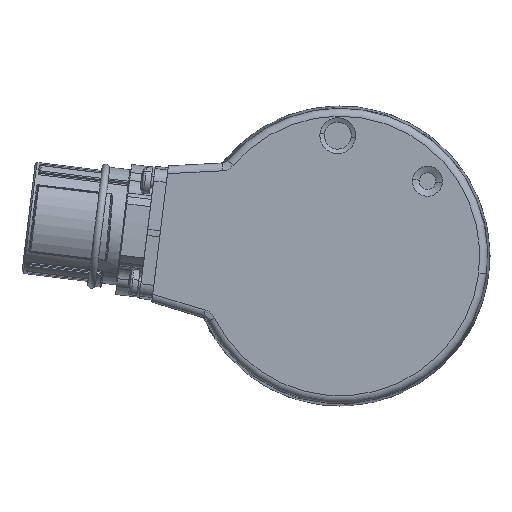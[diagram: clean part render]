
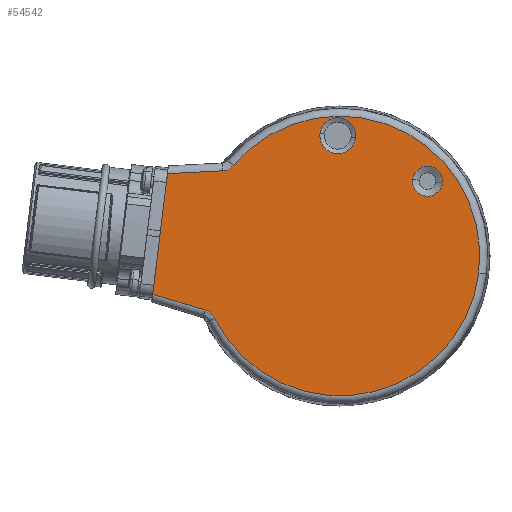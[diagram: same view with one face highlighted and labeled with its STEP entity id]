
A CAD part, left-side view. The second image highlights one B-rep face of the part: STEP entity #54542.
In plain terms, the highlighted planar face has unit normal (-1, 0, 0).
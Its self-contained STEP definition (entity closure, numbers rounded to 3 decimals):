
#115 = DIRECTION ( 'NONE',  ( 0., -0.122, 0.993 ) ) ;
#348 = CARTESIAN_POINT ( 'NONE',  ( -30.5, 24.205, -12.014 ) ) ;
#1517 = DIRECTION ( 'NONE',  ( 1., 0., 0. ) ) ;
#1629 = CARTESIAN_POINT ( 'NONE',  ( -30.5, 24.296, -11.83 ) ) ;
#1706 = CARTESIAN_POINT ( 'NONE',  ( -30.5, 20.859, 17.216 ) ) ;
#2005 = VERTEX_POINT ( 'NONE', #49057 ) ;
#2160 = CARTESIAN_POINT ( 'NONE',  ( -30.5, -14.042, 14.804 ) ) ;
#2538 = AXIS2_PLACEMENT_3D ( 'NONE', #54209, #26268, #58889 ) ;
#4641 = DIRECTION ( 'NONE',  ( 0., -0.993, -0.122 ) ) ;
#5998 = CARTESIAN_POINT ( 'NONE',  ( -30.5, -19.796, 14.097 ) ) ;
#6323 = ORIENTED_EDGE ( 'NONE', *, *, #42658, .T. ) ;
#6383 = CARTESIAN_POINT ( 'NONE',  ( -30.5, 20.579, 17.512 ) ) ;
#6473 = CARTESIAN_POINT ( 'NONE',  ( -30.5, 33.046, 15.919 ) ) ;
#6893 = CARTESIAN_POINT ( 'NONE',  ( -30.5, 0., 0. ) ) ;
#8229 = CARTESIAN_POINT ( 'NONE',  ( -30.5, 3.846, 23.669 ) ) ;
#10633 = EDGE_CURVE ( 'NONE', #38924, #11741, #30474, .T. ) ;
#11420 = VERTEX_POINT ( 'NONE', #5998 ) ;
#11619 = DIRECTION ( 'NONE',  ( 0., -0.993, -0.122 ) ) ;
#11741 = VERTEX_POINT ( 'NONE', #55245 ) ;
#12078 = EDGE_CURVE ( 'NONE', #51637, #33449, #28823, .T. ) ;
#12160 = EDGE_CURVE ( 'NONE', #38924, #33449, #23996, .T. ) ;
#12629 = FACE_BOUND ( 'NONE', #44570, .T. ) ;
#12807 = CARTESIAN_POINT ( 'NONE',  ( -30.5, 24.657, -11.336 ) ) ;
#13243 = ORIENTED_EDGE ( 'NONE', *, *, #12160, .T. ) ;
#14538 = DIRECTION ( 'NONE',  ( 1., 0., 0. ) ) ;
#15606 = CARTESIAN_POINT ( 'NONE',  ( -30.5, 22.503, 16.471 ) ) ;
#15744 = CARTESIAN_POINT ( 'NONE',  ( -30.5, 24.205, -12.014 ) ) ;
#15868 = CARTESIAN_POINT ( 'NONE',  ( -30.5, 24.797, -11.19 ) ) ;
#16184 = AXIS2_PLACEMENT_3D ( 'NONE', #42330, #14538, #47036 ) ;
#16267 = VERTEX_POINT ( 'NONE', #2160 ) ;
#16335 = CARTESIAN_POINT ( 'NONE',  ( -30.5, 36.168, -7.374 ) ) ;
#16725 = EDGE_CURVE ( 'NONE', #2005, #33111, #27221, .T. ) ;
#17739 = AXIS2_PLACEMENT_3D ( 'NONE', #18512, #51074, #23146 ) ;
#17854 = EDGE_CURVE ( 'NONE', #2005, #11741, #38074, .T. ) ;
#17940 = ORIENTED_EDGE ( 'NONE', *, *, #33462, .T. ) ;
#18036 = CARTESIAN_POINT ( 'NONE',  ( -30.5, -3.034, 22.824 ) ) ;
#18107 = VECTOR ( 'NONE', #115, 1000. ) ;
#18512 = CARTESIAN_POINT ( 'NONE',  ( -30.5, 0., 0. ) ) ;
#20241 = CARTESIAN_POINT ( 'NONE',  ( -30.5, 22.299, 16.503 ) ) ;
#20494 = CARTESIAN_POINT ( 'NONE',  ( -30.5, 25.277, -10.811 ) ) ;
#22781 = ORIENTED_EDGE ( 'NONE', *, *, #42208, .T. ) ;
#23146 = DIRECTION ( 'NONE',  ( 0., -0.993, -0.122 ) ) ;
#23996 = LINE ( 'NONE', #53896, #34849 ) ;
#24415 = ORIENTED_EDGE ( 'NONE', *, *, #17854, .T. ) ;
#24898 = CARTESIAN_POINT ( 'NONE',  ( -30.5, 21.716, 16.677 ) ) ;
#24933 = FACE_OUTER_BOUND ( 'NONE', #57130, .T. ) ;
#25140 = CARTESIAN_POINT ( 'NONE',  ( -30.5, 25.819, -10.538 ) ) ;
#25480 = CIRCLE ( 'NONE', #47484, 27.022 ) ;
#25613 = DIRECTION ( 'NONE',  ( 1., 0., 0. ) ) ;
#25952 = DIRECTION ( 'NONE',  ( 0., -0.956, -0.292 ) ) ;
#26159 = CIRCLE ( 'NONE', #16184, 3.466 ) ;
#26268 = DIRECTION ( 'NONE',  ( 1., 0., 0. ) ) ;
#26592 = EDGE_LOOP ( 'NONE', ( #22781, #40759 ) ) ;
#27221 = B_SPLINE_CURVE_WITH_KNOTS ( 'NONE', 3,
 ( #48111, #15606, #20241, #52836, #24898, #57509, #29559, #1706, #34221, #6383 ),
 .UNSPECIFIED., .F., .F.,
 ( 4, 2, 2, 2, 4 ),
 ( 0., 0.001, 0.001, 0.002, 0.002 ),
 .UNSPECIFIED. ) ;
#27578 = CIRCLE ( 'NONE', #2538, 2.899 ) ;
#27982 = CARTESIAN_POINT ( 'NONE',  ( -30.5, 36.354, -8.886 ) ) ;
#28119 = ORIENTED_EDGE ( 'NONE', *, *, #10633, .F. ) ;
#28746 = PLANE ( 'NONE',  #51625 ) ;
#28823 = B_SPLINE_CURVE_WITH_KNOTS ( 'NONE', 3,
 ( #15744, #1629, #29485, #12807, #15868, #48367, #20494, #53083, #25140, #57764 ),
 .UNSPECIFIED., .F., .F.,
 ( 4, 2, 2, 2, 4 ),
 ( 0., 0.001, 0.001, 0.002, 0.002 ),
 .UNSPECIFIED. ) ;
#29388 = CARTESIAN_POINT ( 'NONE',  ( -30.5, 0.406, 23.246 ) ) ;
#29485 = CARTESIAN_POINT ( 'NONE',  ( -30.5, 24.406, -11.656 ) ) ;
#29559 = CARTESIAN_POINT ( 'NONE',  ( -30.5, 21.178, 16.967 ) ) ;
#30474 = LINE ( 'NONE', #27982, #18107 ) ;
#30533 = CARTESIAN_POINT ( 'NONE',  ( -30.5, 20.579, 17.512 ) ) ;
#32499 = DIRECTION ( 'NONE',  ( 1., 0., 0. ) ) ;
#33111 = VERTEX_POINT ( 'NONE', #30533 ) ;
#33449 = VERTEX_POINT ( 'NONE', #53362 ) ;
#33462 = EDGE_CURVE ( 'NONE', #51953, #33111, #25480, .T. ) ;
#33463 = ORIENTED_EDGE ( 'NONE', *, *, #36918, .T. ) ;
#34038 = DIRECTION ( 'NONE',  ( 0., -0.993, -0.122 ) ) ;
#34221 = CARTESIAN_POINT ( 'NONE',  ( -30.5, 20.712, 17.356 ) ) ;
#34849 = VECTOR ( 'NONE', #25952, 1000. ) ;
#35816 = FACE_BOUND ( 'NONE', #26592, .T. ) ;
#36572 = AXIS2_PLACEMENT_3D ( 'NONE', #29388, #1517, #34038 ) ;
#36611 = VECTOR ( 'NONE', #44695, 1000. ) ;
#36918 = EDGE_CURVE ( 'NONE', #16267, #11420, #27578, .T. ) ;
#37476 = CIRCLE ( 'NONE', #36572, 3.466 ) ;
#38074 = LINE ( 'NONE', #6473, #36611 ) ;
#38920 = EDGE_CURVE ( 'NONE', #11420, #16267, #49447, .T. ) ;
#38924 = VERTEX_POINT ( 'NONE', #16335 ) ;
#39430 = DIRECTION ( 'NONE',  ( -1., 0., 0. ) ) ;
#40759 = ORIENTED_EDGE ( 'NONE', *, *, #44830, .T. ) ;
#42208 = EDGE_CURVE ( 'NONE', #52664, #49154, #26159, .T. ) ;
#42330 = CARTESIAN_POINT ( 'NONE',  ( -30.5, 0.406, 23.246 ) ) ;
#42658 = EDGE_CURVE ( 'NONE', #51637, #51953, #54888, .T. ) ;
#44570 = EDGE_LOOP ( 'NONE', ( #33463, #53787 ) ) ;
#44695 = DIRECTION ( 'NONE',  ( 0., 0.999, -0.052 ) ) ;
#44830 = EDGE_CURVE ( 'NONE', #49154, #52664, #37476, .T. ) ;
#47036 = DIRECTION ( 'NONE',  ( 0., -0.993, -0.122 ) ) ;
#47484 = AXIS2_PLACEMENT_3D ( 'NONE', #6893, #39430, #11619 ) ;
#48111 = CARTESIAN_POINT ( 'NONE',  ( -30.5, 22.708, 16.461 ) ) ;
#48367 = CARTESIAN_POINT ( 'NONE',  ( -30.5, 25.107, -10.927 ) ) ;
#49057 = CARTESIAN_POINT ( 'NONE',  ( -30.5, 22.708, 16.461 ) ) ;
#49104 = ORIENTED_EDGE ( 'NONE', *, *, #16725, .F. ) ;
#49154 = VERTEX_POINT ( 'NONE', #18036 ) ;
#49447 = CIRCLE ( 'NONE', #53854, 2.899 ) ;
#51074 = DIRECTION ( 'NONE',  ( -1., 0., 0. ) ) ;
#51625 = AXIS2_PLACEMENT_3D ( 'NONE', #60492, #32499, #4641 ) ;
#51637 = VERTEX_POINT ( 'NONE', #348 ) ;
#51953 = VERTEX_POINT ( 'NONE', #55292 ) ;
#52664 = VERTEX_POINT ( 'NONE', #8229 ) ;
#52836 = CARTESIAN_POINT ( 'NONE',  ( -30.5, 21.906, 16.606 ) ) ;
#53083 = CARTESIAN_POINT ( 'NONE',  ( -30.5, 25.632, -10.617 ) ) ;
#53362 = CARTESIAN_POINT ( 'NONE',  ( -30.5, 26.015, -10.478 ) ) ;
#53558 = CARTESIAN_POINT ( 'NONE',  ( -30.5, -16.919, 14.45 ) ) ;
#53787 = ORIENTED_EDGE ( 'NONE', *, *, #38920, .T. ) ;
#53854 = AXIS2_PLACEMENT_3D ( 'NONE', #53558, #25613, #58226 ) ;
#53896 = CARTESIAN_POINT ( 'NONE',  ( -30.5, 25.362, -10.678 ) ) ;
#54209 = CARTESIAN_POINT ( 'NONE',  ( -30.5, -16.919, 14.45 ) ) ;
#54542 = ADVANCED_FACE ( 'NONE', ( #35816, #12629, #24933 ), #28746, .F. ) ;
#54888 = CIRCLE ( 'NONE', #17739, 27.022 ) ;
#55245 = CARTESIAN_POINT ( 'NONE',  ( -30.5, 33.31, 15.905 ) ) ;
#55292 = CARTESIAN_POINT ( 'NONE',  ( -30.5, -26.821, -3.293 ) ) ;
#57130 = EDGE_LOOP ( 'NONE', ( #49104, #24415, #28119, #13243, #58379, #6323, #17940 ) ) ;
#57509 = CARTESIAN_POINT ( 'NONE',  ( -30.5, 21.352, 16.857 ) ) ;
#57764 = CARTESIAN_POINT ( 'NONE',  ( -30.5, 26.015, -10.478 ) ) ;
#58226 = DIRECTION ( 'NONE',  ( 0., -0.993, -0.122 ) ) ;
#58379 = ORIENTED_EDGE ( 'NONE', *, *, #12078, .F. ) ;
#58889 = DIRECTION ( 'NONE',  ( 0., -0.993, -0.122 ) ) ;
#60492 = CARTESIAN_POINT ( 'NONE',  ( -30.5, 0., 0. ) ) ;
